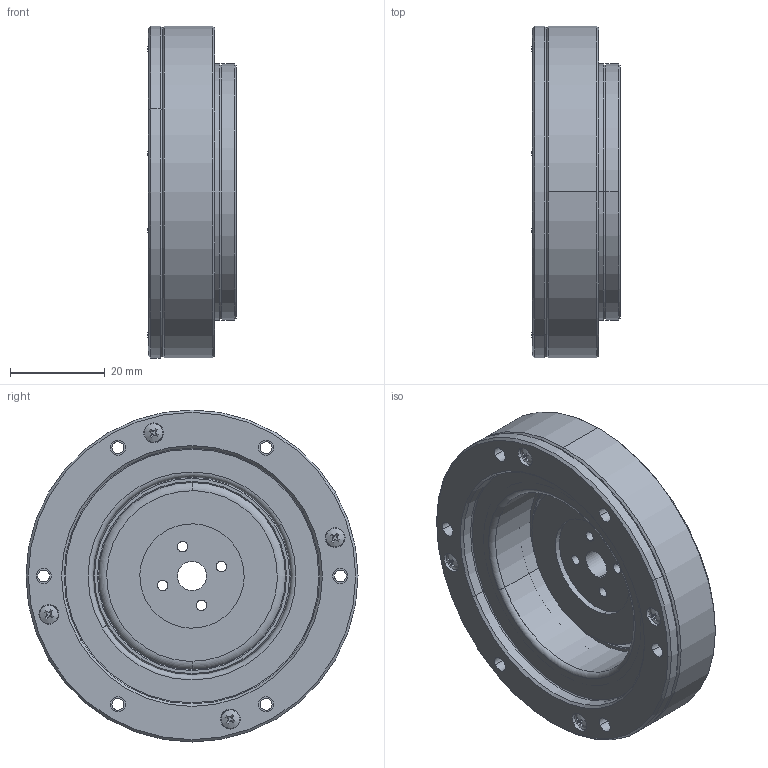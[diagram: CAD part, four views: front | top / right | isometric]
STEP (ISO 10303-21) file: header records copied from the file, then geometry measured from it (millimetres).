
FILE_DESCRIPTION (( 'STEP AP214' ), '1' );
FILE_NAME ('SHD-1714-xxx.STEP', '2023-06-10T08:26:49', ( 'PC' ), ( 'Microsoft' ), 'SwSTEP 2.0', 'SolidWorks 2016', '' );
FILE_SCHEMA (( 'AUTOMOTIVE_DESIGN' ));
Length unit declared in the file: millimetre
Products named in the file (15): 开槽圆柱头螺钉 M1.6×6_預設; 丁晴橡胶 57x1.5_預設; ｹｵ3｡ﾁ2.85; SHD-1714_004; SHD-1714_002; SHD-1714_001; SHD-1714-xxx; 十字槽盘头螺钉 M2×4_預設; 間ю砎蝶 56x1_蕼偞; SHD-1714疏楷汜ん; SHD-1714_005; SXD-17柔性轴承; SHD-1714_003; SHD-1714_006; SHD-1714蝠脫粣創_蕼偞
Assembly tree (72 placements, depth 3):
  SHD-1714-xxx
    SHD-1714蝠脫粣創_蕼偞
      SHD-1714_001
      SHD-1714_002
      SHD-1714_004
      ｹｵ3｡ﾁ2.85  x56
      丁晴橡胶 57x1.5_預設
      开槽圆柱头螺钉 M1.6×6_預設
    SHD-1714_006
    SHD-1714_003
    SHD-1714疏楷汜ん
      SXD-17柔性轴承
      SHD-1714_005
    間ю砎蝶 56x1_蕼偞
    十字槽盘头螺钉 M2×4_預設  x4
Bounding box: 18.56 x 70 x 70 mm (x, y, z)
Volume: 37793.4 mm3; surface area: 38477.9 mm2
Topology: 70 solids, 70 shells, 998 faces, 2103 edges, 1243 vertices
Faces by surface type: cylinder 345, cone 330, plane 256, bspline 39, torus 28
Entity records: 17455 total; most frequent: CARTESIAN_POINT 5038, DIRECTION 2576, ORIENTED_EDGE 2094, AXIS2_PLACEMENT_3D 1100, EDGE_CURVE 1047, VERTEX_POINT 653, CIRCLE 597, EDGE_LOOP 572
